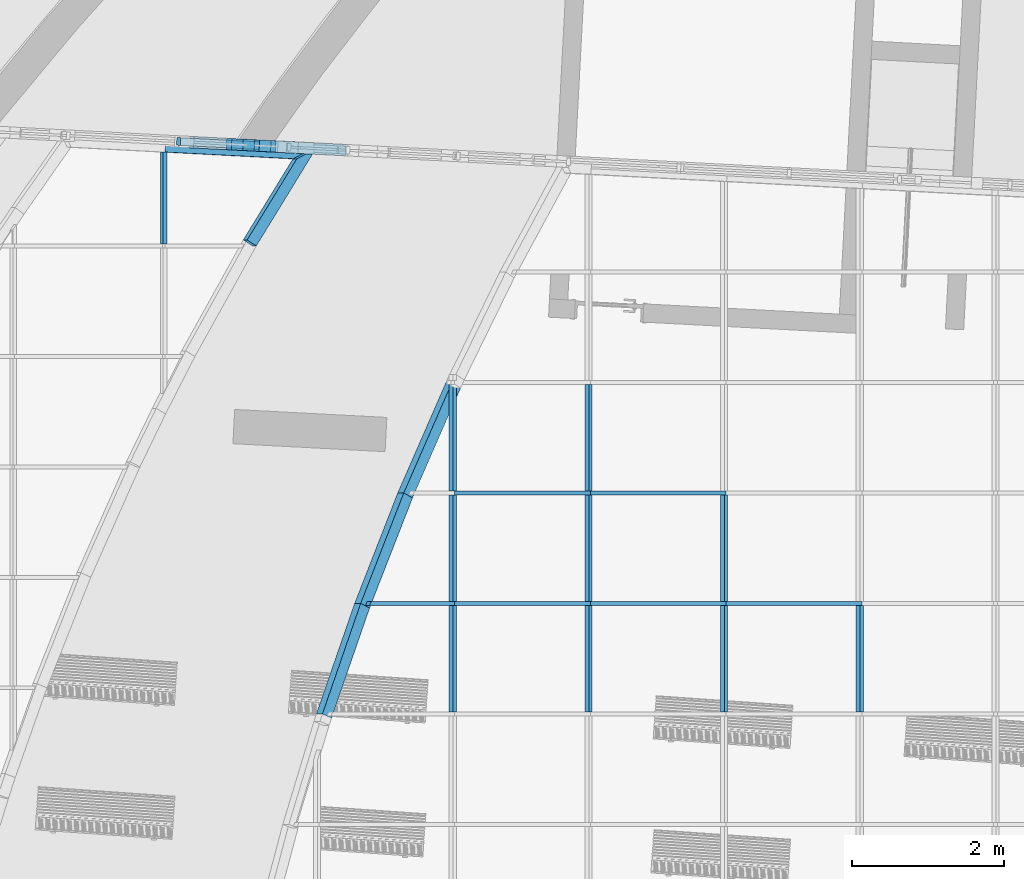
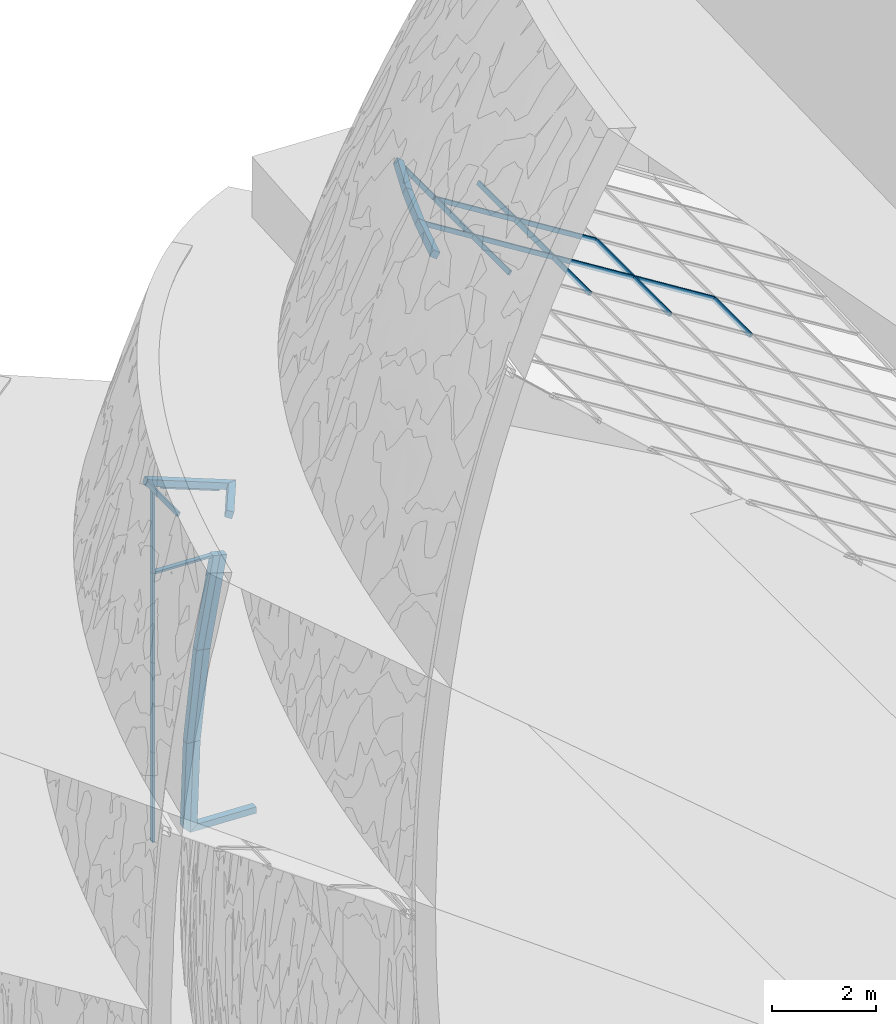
# One storey, part 18 of 82: 34 members, 2 elements without a shape of their own.
"""IFC2X3 building model written with IfcOpenShell, lengths in millimetres."""

from ifc_helpers import new_model, entity, si_unit, converted_unit, derived_unit, direction, frame, frame_2d, origin, origin_2d_with_axis, place, context, subcontext, project, spatial, polyline, rectangle, extrude, clip, halfspace, bounded_halfspace, source, transform, mapped, material, type_object, type_shapes, element, aggregate, save


model = new_model("IFC2X3")

# Units and contexts
model_context = context("Model", 3, precision=0.01, world=origin(), true_north=direction((6.12303176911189e-17, 1.0)))
body_context = subcontext(model_context, "Body", "Model", "MODEL_VIEW")
ifc_project = project(units=[si_unit("LENGTHUNIT", "METRE", prefix="MILLI"), si_unit("AREAUNIT", "SQUARE_METRE"), si_unit("VOLUMEUNIT", "CUBIC_METRE"), converted_unit("PLANEANGLEUNIT", "DEGREE", entity("IfcRatioMeasure", 0.0174532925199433), si_unit("PLANEANGLEUNIT", "RADIAN"), dimensions=[0, 0, 0, 0, 0, 0, 0]), si_unit("MASSUNIT", "GRAM", prefix="KILO"), derived_unit("MASSDENSITYUNIT", [(si_unit("MASSUNIT", "GRAM", prefix="KILO"), 1), (si_unit("LENGTHUNIT", "METRE"), -3)]), si_unit("TIMEUNIT", "SECOND"), si_unit("FREQUENCYUNIT", "HERTZ"), si_unit("THERMODYNAMICTEMPERATUREUNIT", "DEGREE_CELSIUS"), derived_unit("THERMALTRANSMITTANCEUNIT", [(si_unit("MASSUNIT", "GRAM", prefix="KILO"), 1), (si_unit("THERMODYNAMICTEMPERATUREUNIT", "KELVIN"), -1), (si_unit("TIMEUNIT", "SECOND"), -3)]), derived_unit("VOLUMETRICFLOWRATEUNIT", [(si_unit("LENGTHUNIT", "METRE"), 3), (si_unit("TIMEUNIT", "SECOND"), -1)]), si_unit("ELECTRICCURRENTUNIT", "AMPERE"), si_unit("ELECTRICVOLTAGEUNIT", "VOLT"), si_unit("POWERUNIT", "WATT"), si_unit("FORCEUNIT", "NEWTON", prefix="KILO"), si_unit("ILLUMINANCEUNIT", "LUX"), si_unit("LUMINOUSFLUXUNIT", "LUMEN"), si_unit("LUMINOUSINTENSITYUNIT", "CANDELA"), derived_unit("USERDEFINED", [(si_unit("MASSUNIT", "GRAM", prefix="KILO"), -1), (si_unit("LENGTHUNIT", "METRE"), -2), (si_unit("TIMEUNIT", "SECOND"), 3), (si_unit("LUMINOUSFLUXUNIT", "LUMEN"), 1)]), derived_unit("LINEARVELOCITYUNIT", [(si_unit("LENGTHUNIT", "METRE"), 1), (si_unit("TIMEUNIT", "SECOND"), -1)]), si_unit("PRESSUREUNIT", "PASCAL"), derived_unit("USERDEFINED", [(si_unit("LENGTHUNIT", "METRE"), -2), (si_unit("MASSUNIT", "GRAM", prefix="KILO"), 1), (si_unit("TIMEUNIT", "SECOND"), -2)])], contexts=[model_context])

# Site, building, storey
site_placement = place(None, origin())
site = spatial("IfcSite", under=ifc_project, at=site_placement, Name="表面", CompositionType="ELEMENT")
building_placement = place(site_placement, origin())
building = spatial("IfcBuilding", under=site, at=building_placement, CompositionType="ELEMENT")
storey_placement = place(building_placement, origin())
storey = spatial("IfcBuildingStorey", under=building, at=storey_placement, Name="1F", CompositionType="ELEMENT", Elevation=0.0)

# Curtain wall, members
curtain_wall_type = type_object("IfcCurtainWallType", Name="幕墙系统:1450 x 2100mm", PredefinedType="NOTDEFINED")
curtain_wall_1_placement = place(storey_placement, origin())
curtain_wall_1 = element("IfcCurtainWall", 1, at=curtain_wall_1_placement, inside=storey, type_object=curtain_wall_type, Name="幕墙系统:1450 x 2100mm", ObjectType="幕墙系统:1450 x 2100mm")
ifc_material_1 = material(Name="金属 - 铝")
member_type_1 = type_object("IfcMemberType", Name="50 x 100mm", PredefinedType="MEMBER")
shared_shape_1 = source(origin(), body_context, "Body", "SweptSolid", [
    extrude(rectangle(XDim=100.0, YDim=50.0, at=origin_2d_with_axis()), frame((0.0, 0.0, -1400.0), z_axis=(0.0, 0.0, 1.0), x_axis=(0.0, -1.0, 0.0)), (0.0, 0.0, 1.0), 1400.0),
])
type_shapes(member_type_1, [shared_shape_1])
placement_1 = place(building_placement, frame((0.0, 0.0, 9000.0)))
member_1_placement = place(placement_1, frame((-21700.0006149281, -3263.90315351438, 4255.86225190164), z_axis=(0.0, 1.0, 0.0), x_axis=(-0.848048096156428, 0.0, 0.529919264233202)))
member_1 = element("IfcMember", 2, at=member_1_placement, type_object=member_type_1, material=ifc_material_1, Name="矩形竖梃:50 x 100mm", ObjectType="50 x 100mm", context=body_context, shape_type="MappedRepresentation", body=[
    mapped(shared_shape_1, transform((0.0, 0.0, 0.0), scale=1.0)),
])
member_2_placement = place(placement_1, frame((-23480.9016168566, -1813.90315351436, 5368.69270679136), z_axis=(0.0, 1.0, 0.0), x_axis=(-0.848048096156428, 0.0, 0.529919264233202)))
member_2 = element("IfcMember", 3, at=member_2_placement, type_object=member_type_1, material=ifc_material_1, Name="矩形竖梃:50 x 100mm", ObjectType="50 x 100mm", context=body_context, shape_type="MappedRepresentation", body=[
    mapped(shared_shape_1, transform((0.0, 0.0, 0.0), scale=1.0)),
])
member_3_placement = place(placement_1, frame((-23480.9016168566, -3263.90315351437, 5368.69270679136), z_axis=(0.0, 1.0, 0.0), x_axis=(-0.848048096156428, 0.0, 0.529919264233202)))
member_3 = element("IfcMember", 4, at=member_3_placement, type_object=member_type_1, material=ifc_material_1, Name="矩形竖梃:50 x 100mm", ObjectType="50 x 100mm", context=body_context, shape_type="MappedRepresentation", body=[
    mapped(shared_shape_1, transform((0.0, 0.0, 0.0), scale=1.0)),
])
member_4_placement = place(placement_1, frame((-25261.8026187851, -363.903153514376, 6481.52316168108), z_axis=(0.0, 1.0, 0.0), x_axis=(-0.848048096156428, 0.0, 0.529919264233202)))
member_4 = element("IfcMember", 5, at=member_4_placement, type_object=member_type_1, material=ifc_material_1, Name="矩形竖梃:50 x 100mm", ObjectType="50 x 100mm", context=body_context, shape_type="MappedRepresentation", body=[
    mapped(shared_shape_1, transform((0.0, 0.0, 0.0), scale=1.0)),
])
member_5_placement = place(placement_1, frame((-25261.8026187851, -1813.90315351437, 6481.52316168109), z_axis=(0.0, 1.0, 0.0), x_axis=(-0.848048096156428, 0.0, 0.529919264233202)))
member_5 = element("IfcMember", 6, at=member_5_placement, type_object=member_type_1, material=ifc_material_1, Name="矩形竖梃:50 x 100mm", ObjectType="50 x 100mm", context=body_context, shape_type="MappedRepresentation", body=[
    mapped(shared_shape_1, transform((0.0, 0.0, 0.0), scale=1.0)),
])
member_6_placement = place(placement_1, frame((-25261.8026187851, -3263.90315351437, 6481.52316168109), z_axis=(0.0, 1.0, 0.0), x_axis=(-0.848048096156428, 0.0, 0.529919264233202)))
member_6 = element("IfcMember", 7, at=member_6_placement, type_object=member_type_1, material=ifc_material_1, Name="矩形竖梃:50 x 100mm", ObjectType="50 x 100mm", context=body_context, shape_type="MappedRepresentation", body=[
    mapped(shared_shape_1, transform((0.0, 0.0, 0.0), scale=1.0)),
])
member_7_placement = place(placement_1, frame((-27042.7036207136, -363.90315351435, 7594.35361657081), z_axis=(0.0, 1.0, 0.0), x_axis=(-0.848048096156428, 0.0, 0.529919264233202)))
member_7 = element("IfcMember", 8, at=member_7_placement, type_object=member_type_1, material=ifc_material_1, Name="矩形竖梃:50 x 100mm", ObjectType="50 x 100mm", context=body_context, shape_type="MappedRepresentation", body=[
    mapped(shared_shape_1, transform((0.0, 0.0, 0.0), scale=1.0)),
])
member_8_placement = place(placement_1, frame((-27042.7036207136, -1813.90315351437, 7594.35361657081), z_axis=(0.0, 1.0, 0.0), x_axis=(-0.848048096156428, 0.0, 0.529919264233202)))
member_8 = element("IfcMember", 9, at=member_8_placement, type_object=member_type_1, material=ifc_material_1, Name="矩形竖梃:50 x 100mm", ObjectType="50 x 100mm", context=body_context, shape_type="MappedRepresentation", body=[
    mapped(shared_shape_1, transform((0.0, 0.0, 0.0), scale=1.0)),
])
member_9_placement = place(placement_1, frame((-27042.7036207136, -3263.90315351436, 7594.35361657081), z_axis=(0.0, 1.0, 0.0), x_axis=(-0.848048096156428, 0.0, 0.529919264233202)))
member_9 = element("IfcMember", 10, at=member_9_placement, type_object=member_type_1, material=ifc_material_1, Name="矩形竖梃:50 x 100mm", ObjectType="50 x 100mm", context=body_context, shape_type="MappedRepresentation", body=[
    mapped(shared_shape_1, transform((0.0, 0.0, 0.0), scale=1.0)),
])

# Curtain wall, member
curtain_wall_2_placement = place(storey_placement, origin())
curtain_wall_2 = element("IfcCurtainWall", 11, at=curtain_wall_2_placement, inside=storey, type_object=curtain_wall_type, Name="幕墙系统:1450 x 2100mm", ObjectType="幕墙系统:1450 x 2100mm")
member_type_2 = type_object("IfcMemberType", Name="50 x 100mm", PredefinedType="MEMBER")
shared_shape_2 = source(origin(), body_context, "Body", "SweptSolid", [
    extrude(rectangle(XDim=100.0, YDim=50.0, at=origin_2d_with_axis()), frame((0.0, 0.0, -2100.0), z_axis=(0.0, 0.0, 1.0), x_axis=(0.0, -1.0, 0.0)), (0.0, 0.0, 1.0), 2100.0),
])
type_shapes(member_type_2, [shared_shape_2])
member_10_placement = place(storey_placement, frame((-30640.5448589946, 2824.17469197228, 2100.0), z_axis=(0.0, 0.0, 1.0), x_axis=(0.998629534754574, -0.0523359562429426, 0.0)))
member_10 = element("IfcMember", 12, at=member_10_placement, type_object=member_type_2, material=ifc_material_1, Name="矩形竖梃:50 x 100mm", ObjectType="50 x 100mm", context=body_context, shape_type="MappedRepresentation", body=[
    mapped(shared_shape_2, transform((0.0, 0.0, 0.0), scale=1.0)),
])

# Member
member_type_3 = type_object("IfcMemberType", Name="50 x 100mm", PredefinedType="MEMBER")
shared_shape_3 = source(origin(), body_context, "Body", "SweptSolid", [
    extrude(rectangle(XDim=100.0, YDim=50.0, at=origin_2d_with_axis()), frame((0.0, 0.0, -2100.0), z_axis=(0.0, 0.0, 1.0), x_axis=(0.0, -1.0, 0.0)), (0.0, 0.0, 1.0), 2100.0),
])
type_shapes(member_type_3, [shared_shape_3])
member_11_placement = place(placement_1, frame((-23480.9016168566, -3238.90315351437, 5368.69270679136), z_axis=(-0.848048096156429, 0.0, 0.529919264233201), x_axis=(0.0, -1.0, 0.0)))
member_11 = element("IfcMember", 13, at=member_11_placement, type_object=member_type_3, material=ifc_material_1, Name="矩形竖梃:50 x 100mm", ObjectType="50 x 100mm", context=body_context, shape_type="MappedRepresentation", body=[
    mapped(shared_shape_3, transform((0.0, 0.0, 0.0), scale=1.0)),
])

member_12_placement = place(placement_1, frame((-25261.8026187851, -1788.90315351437, 6481.52316168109), z_axis=(-0.848048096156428, 0.0, 0.529919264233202), x_axis=(0.0, -1.0, 0.0)))
member_12 = element("IfcMember", 14, at=member_12_placement, type_object=member_type_3, material=ifc_material_1, Name="矩形竖梃:50 x 100mm", ObjectType="50 x 100mm", context=body_context, shape_type="MappedRepresentation", body=[
    mapped(shared_shape_3, transform((0.0, 0.0, 0.0), scale=1.0)),
])

member_13_placement = place(placement_1, frame((-25261.8026187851, -3238.90315351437, 6481.52316168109), z_axis=(-0.848048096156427, 0.0, 0.529919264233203), x_axis=(0.0, -1.0, 0.0)))
member_13 = element("IfcMember", 15, at=member_13_placement, type_object=member_type_3, material=ifc_material_1, Name="矩形竖梃:50 x 100mm", ObjectType="50 x 100mm", context=body_context, shape_type="MappedRepresentation", body=[
    mapped(shared_shape_3, transform((0.0, 0.0, 0.0), scale=1.0)),
])

member_14_placement = place(placement_1, frame((-27042.7036207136, -1788.90315351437, 7594.35361657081), z_axis=(-0.848048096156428, 0.0, 0.529919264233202), x_axis=(0.0, -1.0, 0.0)))
member_14 = element("IfcMember", 16, at=member_14_placement, type_object=member_type_3, material=ifc_material_1, Name="矩形竖梃:50 x 100mm", ObjectType="50 x 100mm", context=body_context, shape_type="MappedRepresentation", body=[
    mapped(shared_shape_3, transform((0.0, 0.0, 0.0), scale=1.0)),
])

member_15_placement = place(placement_1, frame((-27042.7036207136, -3238.90315351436, 7594.35361657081), z_axis=(-0.848048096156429, 0.0, 0.529919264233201), x_axis=(0.0, -1.0, 0.0)))
member_15 = element("IfcMember", 17, at=member_15_placement, type_object=member_type_3, material=ifc_material_1, Name="矩形竖梃:50 x 100mm", ObjectType="50 x 100mm", context=body_context, shape_type="MappedRepresentation", body=[
    mapped(shared_shape_3, transform((0.0, 0.0, 0.0), scale=1.0)),
])

member_16_placement = place(storey_placement, frame((-30640.5448589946, 2824.17469197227, 4200.0), z_axis=(0.0, 0.0, 1.0), x_axis=(0.998629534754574, -0.0523359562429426, 0.0)))
member_16 = element("IfcMember", 18, at=member_16_placement, type_object=member_type_3, material=ifc_material_1, Name="矩形竖梃:50 x 100mm", ObjectType="50 x 100mm", context=body_context, shape_type="MappedRepresentation", body=[
    mapped(shared_shape_3, transform((0.0, 0.0, 0.0), scale=1.0)),
])

placement_2 = place(building_placement, frame((0.0, 0.0, 3000.0)))
member_17_placement = place(placement_2, frame((-30640.5448589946, 2824.17469197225, 3300.0), z_axis=(0.0, 0.0, 1.0), x_axis=(0.998629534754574, -0.0523359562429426, 0.0)))
member_17 = element("IfcMember", 19, at=member_17_placement, type_object=member_type_3, material=ifc_material_1, Name="矩形竖梃:50 x 100mm", ObjectType="50 x 100mm", context=body_context, shape_type="MappedRepresentation", body=[
    mapped(shared_shape_3, transform((0.0, 0.0, 0.0), scale=1.0)),
])

placement_3 = place(building_placement, frame((0.0, 0.0, 6000.0)))
member_18_placement = place(placement_3, frame((-30640.5448589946, 2824.17469197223, 2400.0), z_axis=(0.0, 0.0, 1.0), x_axis=(0.998629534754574, -0.0523359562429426, 0.0)))
member_18 = element("IfcMember", 20, at=member_18_placement, type_object=member_type_3, material=ifc_material_1, Name="矩形竖梃:50 x 100mm", ObjectType="50 x 100mm", context=body_context, shape_type="MappedRepresentation", body=[
    mapped(shared_shape_3, transform((0.0, 0.0, 0.0), scale=1.0)),
])

ifc_material_2 = material(Name="木质 - 木材")
member_type_4 = type_object("IfcMemberType", Name="200 x 150mm", PredefinedType="MEMBER")
shared_shape_4 = source(origin(), body_context, "Body", "Clipping", [
    clip(clip(extrude(rectangle(XDim=150.0, YDim=150.0, at=frame_2d((-4.2632564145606e-14, 1.4210854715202e-14), x_axis=(1.0, 0.0))), frame((-75.0, 0.0, -1631.03453174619), z_axis=(0.0, 0.0, 1.0), x_axis=(0.0, -1.0, 0.0)), (0.0, 0.0, 1.0), 1631.03453174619), halfspace(frame((0.0, -304.799999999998, -1631.03453174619), z_axis=(-0.0222563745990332, 0.0, -0.999752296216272), x_axis=(-0.999752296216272, 0.0, 0.0222563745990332)), False)), halfspace(frame((0.0, -304.8, 0.0), z_axis=(-0.0120773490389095, 0.0, 0.999927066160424), x_axis=(-0.999927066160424, 0.0, -0.0120773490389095)), False)),
])
type_shapes(member_type_4, [shared_shape_4])
member_19_placement = place(placement_1, frame((-27091.4699376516, -338.903153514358, 7624.82619343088), z_axis=(0.388316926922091, 0.889006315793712, -0.242647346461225), x_axis=(-0.753920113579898, 0.457894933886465, 0.471101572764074)))
member_19 = element("IfcMember", 21, at=member_19_placement, type_object=member_type_4, material=ifc_material_2, Name="矩形竖梃:200 x 150mm", ObjectType="200 x 150mm", context=body_context, shape_type="MappedRepresentation", body=[
    mapped(shared_shape_4, transform((0.0, 0.0, 0.0), scale=1.0)),
])

member_type_5 = type_object("IfcMemberType", Name="200 x 150mm", PredefinedType="MEMBER")
shared_shape_5 = source(origin(), body_context, "Body", "Clipping", [
    clip(clip(extrude(rectangle(XDim=150.0, YDim=150.0, at=frame_2d((0.0, 7.105427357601e-14), x_axis=(1.0, 0.0))), frame((-75.0, 0.0, -1596.03268526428), z_axis=(0.0, 0.0, 1.0), x_axis=(0.0, -1.0, 0.0)), (0.0, 0.0, 1.0), 1596.03268526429), halfspace(frame((0.0, -304.800000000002, -1596.03268526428), z_axis=(-0.0218086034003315, 0.0, -0.999762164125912), x_axis=(-0.999762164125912, 0.0, 0.0218086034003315)), False)), halfspace(frame((0.0, -304.8, 0.0), z_axis=(-0.0222563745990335, 0.0, 0.999752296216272), x_axis=(-0.999752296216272, 0.0, -0.0222563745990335)), False)),
])
type_shapes(member_type_5, [shared_shape_5])
member_20_placement = place(placement_1, frame((-27724.8282547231, -1788.90315351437, 8020.59239454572), z_axis=(0.354381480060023, 0.908502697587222, -0.221442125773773), x_axis=(-0.770453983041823, 0.417878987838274, 0.4814330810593)))
member_20 = element("IfcMember", 22, at=member_20_placement, type_object=member_type_5, material=ifc_material_2, Name="矩形竖梃:200 x 150mm", ObjectType="200 x 150mm", context=body_context, shape_type="MappedRepresentation", body=[
    mapped(shared_shape_5, transform((0.0, 0.0, 0.0), scale=1.0)),
])

member_type_6 = type_object("IfcMemberType", Name="200 x 150mm", PredefinedType="MEMBER")
shared_shape_6 = source(origin(), body_context, "Body", "Clipping", [
    clip(clip(extrude(rectangle(XDim=150.0, YDim=150.0, at=frame_2d((6.3948846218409e-14, -1.4210854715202e-14), x_axis=(1.0, 0.0))), frame((-75.0, 0.0, -1566.11001606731), z_axis=(0.0, 0.0, 1.0), x_axis=(0.0, -1.0, 0.0)), (0.0, 0.0, 1.0), 1566.11001606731), halfspace(frame((0.0, -304.8, -1566.11001606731), z_axis=(-0.011516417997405, 0.0, -0.999933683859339), x_axis=(-0.999933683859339, 0.0, 0.011516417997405)), False)), halfspace(frame((0.0, -304.8, 0.0), z_axis=(-0.0218086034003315, 0.0, 0.999762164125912), x_axis=(-0.999762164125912, 0.0, -0.0218086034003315)), False)),
])
type_shapes(member_type_6, [shared_shape_6])
member_21_placement = place(placement_1, frame((-28290.4326799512, -3238.90315351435, 8374.02126517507), z_axis=(0.320447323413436, 0.925860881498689, -0.200237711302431), x_axis=(-0.785174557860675, 0.377864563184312, 0.490631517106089)))
member_21 = element("IfcMember", 23, at=member_21_placement, type_object=member_type_6, material=ifc_material_2, Name="矩形竖梃:200 x 150mm", ObjectType="200 x 150mm", context=body_context, shape_type="MappedRepresentation", body=[
    mapped(shared_shape_6, transform((0.0, 0.0, 0.0), scale=1.0)),
])

member_type_7 = type_object("IfcMemberType", Name="50 x 100mm", PredefinedType="MEMBER")
shared_shape_7 = source(origin(), body_context, "Body", "Clipping", [
    clip(extrude(rectangle(XDim=100.0, YDim=50.0, at=origin_2d_with_axis()), frame((0.0, 0.0, -1471.29515990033), z_axis=(0.0, 0.0, 1.0), x_axis=(0.0, -1.0, 0.0)), (0.0, 0.0, 1.0), 1317.68744285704), halfspace(frame((-1387.31815182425, 75.0, -803.22392771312), z_axis=(-0.417878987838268, 0.0, 0.908502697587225), x_axis=(0.908502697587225, 0.0, 0.417878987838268)), False)),
])
type_shapes(member_type_7, [shared_shape_7])
member_22_placement = place(placement_1, frame((-28290.4326799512, -3238.90315351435, 8374.02126517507), z_axis=(-0.848048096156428, 0.0, 0.529919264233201), x_axis=(0.0, -1.0, 0.0)))
member_22 = element("IfcMember", 24, at=member_22_placement, type_object=member_type_7, material=ifc_material_1, Name="矩形竖梃:50 x 100mm", ObjectType="50 x 100mm", context=body_context, shape_type="MappedRepresentation", body=[
    mapped(shared_shape_7, transform((0.0, 0.0, 0.0), scale=1.0)),
])

member_type_8 = type_object("IfcMemberType", Name="200 x 150mm", PredefinedType="MEMBER")
shared_shape_8 = source(origin(), body_context, "Body", "Clipping", [
    clip(clip(extrude(rectangle(XDim=150.0, YDim=150.0, at=origin_2d_with_axis()), frame((-75.0, 0.0, -2101.2097730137), z_axis=(0.0, 0.0, 1.0), x_axis=(0.0, -1.0, 0.0)), (0.0, 0.0, 1.0), 2101.2097730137), halfspace(frame((0.0, -304.8, -2101.2097730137), z_axis=(-0.0340076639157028, 0.0, -0.999421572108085), x_axis=(-0.999421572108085, 0.0, 0.0340076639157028)), False)), halfspace(frame((0.0, -304.8, 0.0), z_axis=(-0.719002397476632, 0.0, 0.695007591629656), x_axis=(-0.695007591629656, 0.0, -0.719002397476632)), False)),
])
type_shapes(member_type_8, [shared_shape_8])
member_23_placement = place(storey_placement, frame((-29866.300574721, 2784.64343538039, 0.0), z_axis=(-0.0338823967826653, 0.0017757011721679, -0.999424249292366), x_axis=(-0.998054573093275, 0.0523058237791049, 0.03392889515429)))
member_23 = element("IfcMember", 25, at=member_23_placement, type_object=member_type_8, material=ifc_material_2, Name="矩形竖梃:200 x 150mm", ObjectType="200 x 150mm", context=body_context, shape_type="MappedRepresentation", body=[
    mapped(shared_shape_8, transform((0.0, 0.0, 0.0), scale=1.0)),
])

member_type_9 = type_object("IfcMemberType", Name="200 x 150mm", PredefinedType="MEMBER")
shared_shape_9 = source(origin(), body_context, "Body", "Clipping", [
    clip(extrude(rectangle(XDim=150.0, YDim=150.0, at=origin_2d_with_axis()), frame((-75.0, 0.0, -1425.0), z_axis=(0.0, 0.0, 1.0), x_axis=(0.0, -1.0, 0.0)), (0.0, 0.0, 1.0), 1425.0), halfspace(frame((0.0, -304.800000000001, -1425.0), z_axis=(-0.718980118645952, 0.0, -0.69503063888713), x_axis=(-0.69503063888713, 0.0, 0.718980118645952)), False)),
])
type_shapes(member_type_9, [shared_shape_9])
member_24_placement = place(storey_placement, frame((-28443.2534876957, 2710.06469773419, 0.0), z_axis=(0.998629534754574, -0.0523359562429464, 0.0), x_axis=(0.0, 0.0, -1.0)))
member_24 = element("IfcMember", 26, at=member_24_placement, type_object=member_type_9, material=ifc_material_2, Name="矩形竖梃:200 x 150mm", ObjectType="200 x 150mm", context=body_context, shape_type="MappedRepresentation", body=[
    mapped(shared_shape_9, transform((0.0, 0.0, 0.0), scale=1.0)),
])

member_type_10 = type_object("IfcMemberType", Name="200 x 150mm", PredefinedType="MEMBER")
shared_shape_10 = source(origin(), body_context, "Body", "Clipping", [
    clip(clip(extrude(rectangle(XDim=150.0, YDim=150.0, at=origin_2d_with_axis()), frame((-75.0, 0.0, -2110.96394878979), z_axis=(0.0, 0.0, 1.0), x_axis=(0.0, -1.0, 0.0)), (0.0, 0.0, 1.0), 2110.96394878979), halfspace(frame((0.0, -304.8, -2110.96394878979), z_axis=(-0.0342472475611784, 0.0, -0.99941339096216), x_axis=(-0.99941339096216, 0.0, 0.0342472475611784)), False)), halfspace(frame((0.0, -304.8, 0.0), z_axis=(-0.0340076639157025, 0.0, 0.999421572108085), x_axis=(-0.999421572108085, 0.0, -0.0340076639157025)), False)),
])
type_shapes(member_type_10, [shared_shape_10])
member_25_placement = place(storey_placement, frame((-29795.1065514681, 2780.91231472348, 2100.0), z_axis=(-0.101647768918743, 0.00532713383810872, -0.994806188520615), x_axis=(-0.993442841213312, 0.0520641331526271, 0.101787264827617)))
member_25 = element("IfcMember", 27, at=member_25_placement, type_object=member_type_10, material=ifc_material_2, Name="矩形竖梃:200 x 150mm", ObjectType="200 x 150mm", context=body_context, shape_type="MappedRepresentation", body=[
    mapped(shared_shape_10, transform((0.0, 0.0, 0.0), scale=1.0)),
])

member_type_11 = type_object("IfcMemberType", Name="200 x 150mm", PredefinedType="MEMBER")
shared_shape_11 = source(origin(), body_context, "Body", "Clipping", [
    clip(clip(extrude(rectangle(XDim=150.0, YDim=150.0, at=origin_2d_with_axis()), frame((-75.0, 0.0, -2130.88754221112), z_axis=(0.0, 0.0, 1.0), x_axis=(0.0, -1.0, 0.0)), (0.0, 0.0, 1.0), 2130.88754221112), halfspace(frame((0.0, -304.8, -2130.88754221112), z_axis=(-0.0346581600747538, 0.0, -0.99939922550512), x_axis=(-0.99939922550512, 0.0, 0.0346581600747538)), False)), halfspace(frame((0.0, -304.8, 0.0), z_axis=(-0.0342472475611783, 0.0, 0.99941339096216), x_axis=(-0.99941339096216, 0.0, -0.0342472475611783)), False)),
])
type_shapes(member_type_11, [shared_shape_11])
member_26_placement = place(placement_2, frame((-29580.5317758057, 2769.66692724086, 1200.0), z_axis=(-0.169414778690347, 0.00887865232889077, -0.985504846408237), x_axis=(-0.984154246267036, 0.051577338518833, 0.169647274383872)))
member_26 = element("IfcMember", 28, at=member_26_placement, type_object=member_type_11, material=ifc_material_2, Name="矩形竖梃:200 x 150mm", ObjectType="200 x 150mm", context=body_context, shape_type="MappedRepresentation", body=[
    mapped(shared_shape_11, transform((0.0, 0.0, 0.0), scale=1.0)),
])

aggregate(curtain_wall_1, [member_19, member_20, member_21, member_1, member_2, member_3, member_4, member_5, member_6, member_7, member_8, member_9, member_22, member_11, member_12, member_13, member_14, member_15, member_23, member_24, member_25, member_26])

member_type_12 = type_object("IfcMemberType", Name="200 x 150mm", PredefinedType="MEMBER")
shared_shape_12 = source(origin(), body_context, "Body", "Clipping", [
    clip(extrude(rectangle(XDim=150.0, YDim=150.0, at=origin_2d_with_axis()), frame((-75.0, 0.0, -2102.54500924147), z_axis=(0.0, 0.0, 1.0), x_axis=(0.0, -1.0, 0.0)), (0.0, 0.0, 1.0), 2102.54500924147), halfspace(frame((0.0, -304.799999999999, 0.0), z_axis=(-0.867303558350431, 0.0, 0.497779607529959), x_axis=(-0.497779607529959, 0.0, -0.867303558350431)), False)),
])
type_shapes(member_type_12, [shared_shape_12])
member_27_placement = place(placement_3, frame((-28863.2074055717, 2731.02838300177, 1825.61663099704), z_axis=(0.93855517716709, -0.0491875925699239, -0.341606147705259), x_axis=(0.0462212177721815, 0.998789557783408, -0.0168231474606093)))
member_27 = element("IfcMember", 29, at=member_27_placement, type_object=member_type_12, material=ifc_material_2, Name="矩形竖梃:200 x 150mm", ObjectType="200 x 150mm", context=body_context, shape_type="MappedRepresentation", body=[
    mapped(shared_shape_12, transform((0.0, 0.0, 0.0), scale=1.0)),
])

member_type_13 = type_object("IfcMemberType", Name="200 x 150mm", PredefinedType="MEMBER")
shared_shape_13 = source(origin(), body_context, "Body", "Clipping", [
    clip(clip(extrude(rectangle(XDim=150.0, YDim=150.0, at=frame_2d((0.0, 8.5265128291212e-14), x_axis=(1.0, 0.0))), frame((-75.0, 0.0, -1525.68350677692), z_axis=(0.0, 0.0, 1.0), x_axis=(0.0, -1.0, 0.0)), (0.0, 0.0, 1.0), 1529.01295463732), halfspace(frame((0.0, -304.800000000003, -1525.68350677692), z_axis=(-0.867303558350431, 0.0, -0.497779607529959), x_axis=(-0.497779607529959, 0.0, 0.867303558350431)), False)), halfspace(frame((0.0, 304.799999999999, 0.0), z_axis=(0.0221908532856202, 0.0, 0.999753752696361), x_axis=(0.999753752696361, 0.0, -0.0221908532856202)), False)),
])
type_shapes(member_type_13, [shared_shape_13])
member_28_placement = place(placement_3, frame((-29646.4110242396, 1453.1232801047, 2110.67943556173), z_axis=(-0.513346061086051, -0.837595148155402, 0.18684268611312), x_axis=(0.787081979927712, -0.546291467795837, -0.286474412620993)))
member_28 = element("IfcMember", 30, at=member_28_placement, type_object=member_type_13, material=ifc_material_2, Name="矩形竖梃:200 x 150mm", ObjectType="200 x 150mm", context=body_context, shape_type="MappedRepresentation", body=[
    mapped(shared_shape_13, transform((0.0, 0.0, 0.0), scale=1.0)),
])

member_type_14 = type_object("IfcMemberType", Name="50 x 100mm", PredefinedType="MEMBER")
shared_shape_14 = source(origin(), body_context, "Body", "Clipping", [
    clip(clip(extrude(rectangle(XDim=100.0, YDim=50.0, at=origin_2d_with_axis()), frame((0.0, 0.0, -1356.32423017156), z_axis=(0.0, 0.0, 1.0), x_axis=(0.0, -1.0, 0.0)), (0.0, 0.0, 1.0), 1207.37362388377), bounded_halfspace(frame((-2092.62186111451, 75.0, -253.237560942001), z_axis=(-0.049187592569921, 0.0, 0.998789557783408), x_axis=(0.998789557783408, 0.0, 0.049187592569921)), False, frame((0.0, 0.0, -1356.32423017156), z_axis=(0.0, 0.0, 1.0), x_axis=(0.0, -1.0, 0.0)), polyline([(-50.0, 7.37813888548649), (-50.0, -25.0), (50.0, -25.0), (50.0, 7.37813888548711), (-50.0, 7.37813888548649)]))), bounded_halfspace(frame((7.37813888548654, 75.0, -149.818433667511), z_axis=(-0.0491875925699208, 0.0, 0.998789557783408), x_axis=(0.998789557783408, 0.0, 0.0491875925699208)), False, frame((0.0, 0.0, -1356.32423017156), z_axis=(0.0, 0.0, 1.0), x_axis=(0.0, -1.0, 0.0)), polyline([(-50.0, 25.0), (-50.0, 7.37813888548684), (50.0, 7.37813888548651), (50.0, 25.0), (-50.0, 25.0)]))),
])
type_shapes(member_type_14, [shared_shape_14])
member_29_placement = place(placement_3, frame((-30836.5619092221, 2834.44751027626, 2543.85893198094), z_axis=(0.0, 1.0, 0.0), x_axis=(-0.93969262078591, 0.0, 0.342020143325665)))
member_29 = element("IfcMember", 31, at=member_29_placement, type_object=member_type_14, material=ifc_material_1, Name="矩形竖梃:50 x 100mm", ObjectType="50 x 100mm", context=body_context, shape_type="MappedRepresentation", body=[
    mapped(shared_shape_14, transform((0.0, 0.0, 0.0), scale=1.0)),
])

member_type_15 = type_object("IfcMemberType", Name="200 x 150mm", PredefinedType="MEMBER")
shared_shape_15 = source(origin(), body_context, "Body", "SweptSolid", [
    extrude(rectangle(XDim=150.0, YDim=150.0, at=frame_2d((-1.4210854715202e-14, 0.0), x_axis=(1.0, 0.0))), frame((-75.0, 0.0, -1330.53520857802), z_axis=(0.0, 0.0, 1.0), x_axis=(0.0, -1.0, 0.0)), (0.0, 0.0, 1.0), 1330.53520857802),
])
type_shapes(member_type_15, [shared_shape_15])
member_30_placement = place(placement_3, frame((-30441.3127420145, 2813.73337915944, 2400.0), z_axis=(-0.93855517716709, 0.0491875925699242, 0.341606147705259), x_axis=(0.341137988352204, -0.0178782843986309, 0.939843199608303)))
member_30 = element("IfcMember", 32, at=member_30_placement, type_object=member_type_15, material=ifc_material_2, Name="矩形竖梃:200 x 150mm", ObjectType="200 x 150mm", context=body_context, shape_type="MappedRepresentation", body=[
    mapped(shared_shape_15, transform((0.0, 0.0, 0.0), scale=1.0)),
])

member_type_16 = type_object("IfcMemberType", Name="200 x 150mm", PredefinedType="MEMBER")
shared_shape_16 = source(origin(), body_context, "Body", "Clipping", [
    clip(clip(extrude(rectangle(XDim=150.0, YDim=150.0, at=frame_2d((0.0, 1.4210854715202e-14), x_axis=(1.0, 0.0))), frame((-75.0, 0.0, -2101.20972505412), z_axis=(0.0, 0.0, 1.0), x_axis=(0.0, -1.0, 0.0)), (0.0, 0.0, 1.0), 2106.31371888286), halfspace(frame((0.0, -304.800000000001, -2101.20972505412), z_axis=(-0.695007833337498, 0.0, -0.719002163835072), x_axis=(-0.719002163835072, 0.0, 0.695007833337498)), False)), halfspace(frame((0.0, 304.8, 0.0), z_axis=(0.0340069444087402, 0.0, 0.999421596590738), x_axis=(0.999421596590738, 0.0, -0.0340069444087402)), False)),
])
type_shapes(member_type_16, [shared_shape_16])
member_31_placement = place(storey_placement, frame((-29795.7969944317, 2779.90333233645, 2100.0), z_axis=(0.0338817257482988, -0.0017756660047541, 0.999424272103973), x_axis=(0.998054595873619, -0.052305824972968, -0.0339282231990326)))
member_31 = element("IfcMember", 33, at=member_31_placement, type_object=member_type_16, material=ifc_material_2, Name="矩形竖梃:200 x 150mm", ObjectType="200 x 150mm", context=body_context, shape_type="MappedRepresentation", body=[
    mapped(shared_shape_16, transform((0.0, 0.0, 0.0), scale=1.0)),
])

member_type_17 = type_object("IfcMemberType", Name="200 x 150mm", PredefinedType="MEMBER")
shared_shape_17 = source(origin(), body_context, "Body", "Clipping", [
    clip(clip(extrude(rectangle(XDim=150.0, YDim=150.0, at=frame_2d((0.0, 4.9737991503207e-14), x_axis=(1.0, 0.0))), frame((-75.0, 0.0, -2116.06748640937), z_axis=(0.0, 0.0, 1.0), x_axis=(0.0, -1.0, 0.0)), (0.0, 0.0, 1.0), 2121.20747996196), halfspace(frame((0.0, 304.8, -2110.96349258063), z_axis=(0.0340069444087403, 0.0, -0.999421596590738), x_axis=(0.999421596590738, 0.0, 0.0340069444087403)), False)), halfspace(frame((0.0, 304.8, 0.0), z_axis=(0.0342465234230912, 0.0, 0.99941341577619), x_axis=(0.99941341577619, 0.0, -0.0342465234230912)), False)),
])
type_shapes(member_type_17, [shared_shape_17])
member_32_placement = place(storey_placement, frame((-29581.2266946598, 2768.65817942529, 4200.0), z_axis=(0.101645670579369, -0.00532702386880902, 0.994806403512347), x_axis=(0.993443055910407, -0.0520641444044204, -0.101785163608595)))
member_32 = element("IfcMember", 34, at=member_32_placement, type_object=member_type_17, material=ifc_material_2, Name="矩形竖梃:200 x 150mm", ObjectType="200 x 150mm", context=body_context, shape_type="MappedRepresentation", body=[
    mapped(shared_shape_17, transform((0.0, 0.0, 0.0), scale=1.0)),
])

member_type_18 = type_object("IfcMemberType", Name="200 x 150mm", PredefinedType="MEMBER")
shared_shape_18 = source(origin(), body_context, "Body", "Clipping", [
    clip(clip(extrude(rectangle(XDim=150.0, YDim=150.0, at=frame_2d((-2.8421709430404e-14, 0.0), x_axis=(1.0, 0.0))), frame((-75.0, 0.0, -2136.02622942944), z_axis=(0.0, 0.0, 1.0), x_axis=(0.0, -1.0, 0.0)), (0.0, 0.0, 1.0), 2138.77095769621), halfspace(frame((0.0, 304.8, -2130.88623587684), z_axis=(0.0342465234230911, 0.0, -0.99941341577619), x_axis=(0.99941341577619, 0.0, 0.0342465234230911)), False)), halfspace(frame((0.0, 304.8, 0.0), z_axis=(0.0182951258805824, 0.0, 0.999832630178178), x_axis=(0.999832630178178, 0.0, -0.0182951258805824)), False)),
])
type_shapes(member_type_18, [shared_shape_18])
member_33_placement = place(placement_2, frame((-29220.2305431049, 2749.73917279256, 3300.0), z_axis=(0.169411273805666, -0.0088784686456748, 0.985505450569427), x_axis=(0.984154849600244, -0.0515773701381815, -0.169643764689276)))
member_33 = element("IfcMember", 35, at=member_33_placement, type_object=member_type_18, material=ifc_material_2, Name="矩形竖梃:200 x 150mm", ObjectType="200 x 150mm", context=body_context, shape_type="MappedRepresentation", body=[
    mapped(shared_shape_18, transform((0.0, 0.0, 0.0), scale=1.0)),
])

member_type_19 = type_object("IfcMemberType", Name="50 x 100mm", PredefinedType="MEMBER")
shared_shape_19 = source(origin(), body_context, "Body", "Clipping", [
    clip(extrude(rectangle(XDim=100.0, YDim=50.0, at=origin_2d_with_axis()), frame((0.0, 0.0, -1249.36078984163), z_axis=(0.0, 0.0, 1.0), x_axis=(0.0, -1.0, 0.0)), (0.0, 0.0, 1.0), 1249.36078984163), halfspace(frame((28.1515093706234, 75.0, -1249.9032870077), z_axis=(-0.169643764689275, 0.0, -0.985505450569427), x_axis=(-0.985505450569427, 0.0, 0.169643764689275)), False)),
])
type_shapes(member_type_19, [shared_shape_19])
member_34_placement = place(placement_3, frame((-30615.5791206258, 2822.86629306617, 300.0), z_axis=(-0.998629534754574, 0.0523359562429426, 0.0), x_axis=(0.0, 0.0, 1.0)))
member_34 = element("IfcMember", 36, at=member_34_placement, type_object=member_type_19, material=ifc_material_1, Name="矩形竖梃:50 x 100mm", ObjectType="50 x 100mm", context=body_context, shape_type="MappedRepresentation", body=[
    mapped(shared_shape_19, transform((0.0, 0.0, 0.0), scale=1.0)),
])

aggregate(curtain_wall_2, [member_27, member_28, member_29, member_30, member_31, member_32, member_33, member_34, member_10, member_16, member_17, member_18])

save(model, "model.ifc")
